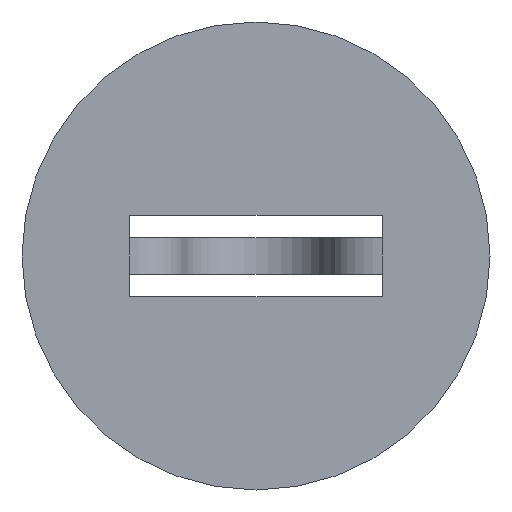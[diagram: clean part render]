
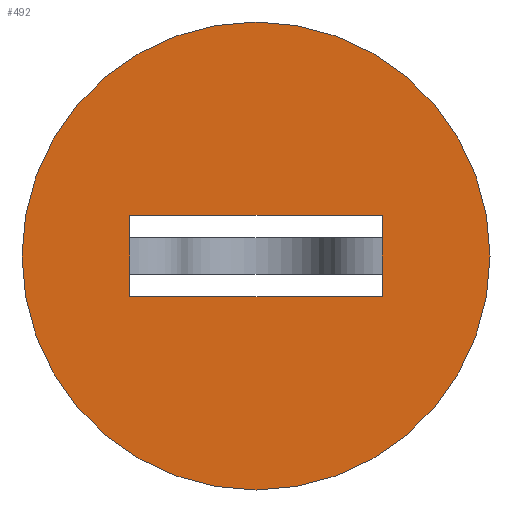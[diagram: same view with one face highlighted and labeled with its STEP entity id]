
A CAD part, front view. The second image highlights one B-rep face of the part: STEP entity #492.
In plain terms, the highlighted planar face has unit normal (0, -1, 0).
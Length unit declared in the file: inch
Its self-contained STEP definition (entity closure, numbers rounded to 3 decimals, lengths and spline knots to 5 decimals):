
#4 = EDGE_CURVE ( 'NONE', #571, #231, #393, .T. ) ;
#34 = VECTOR ( 'NONE', #324, 39.37008 ) ;
#35 = CARTESIAN_POINT ( 'NONE',  ( -0.33697, -0.074, -0.06 ) ) ;
#40 = LINE ( 'NONE', #625, #360 ) ;
#44 = DIRECTION ( 'NONE',  ( 0., 0., -1. ) ) ;
#80 = CARTESIAN_POINT ( 'NONE',  ( -0.46197, -0.074, -0.06 ) ) ;
#83 = CARTESIAN_POINT ( 'NONE',  ( 0.33697, -0.074, 0.098 ) ) ;
#84 = DIRECTION ( 'NONE',  ( 0., -1., 0. ) ) ;
#89 = ORIENTED_EDGE ( 'NONE', *, *, #130, .F. ) ;
#94 = VERTEX_POINT ( 'NONE', #107 ) ;
#107 = CARTESIAN_POINT ( 'NONE',  ( -0.33697, -0.074, 0. ) ) ;
#128 = AXIS2_PLACEMENT_3D ( 'NONE', #410, #168, #364 ) ;
#129 = ORIENTED_EDGE ( 'NONE', *, *, #4, .T. ) ;
#130 = EDGE_CURVE ( 'NONE', #94, #471, #250, .T. ) ;
#131 = EDGE_LOOP ( 'NONE', ( #89, #424, #548, #142, #632, #416, #377, #171 ) ) ;
#132 = FACE_BOUND ( 'NONE', #131, .T. ) ;
#138 = EDGE_CURVE ( 'NONE', #376, #181, #334, .T. ) ;
#140 = CARTESIAN_POINT ( 'NONE',  ( 0.33697, -0.074, 0.158 ) ) ;
#142 = ORIENTED_EDGE ( 'NONE', *, *, #590, .F. ) ;
#149 = VECTOR ( 'NONE', #348, 39.37008 ) ;
#155 = CARTESIAN_POINT ( 'NONE',  ( 0.33697, -0.074, 0. ) ) ;
#160 = LINE ( 'NONE', #359, #179 ) ;
#166 = AXIS2_PLACEMENT_3D ( 'NONE', #322, #84, #221 ) ;
#168 = DIRECTION ( 'NONE',  ( 0., -1., 0. ) ) ;
#171 = ORIENTED_EDGE ( 'NONE', *, *, #419, .F. ) ;
#172 = CARTESIAN_POINT ( 'NONE',  ( 0.33697, -0.074, 0.098 ) ) ;
#179 = VECTOR ( 'NONE', #592, 39.37008 ) ;
#181 = VERTEX_POINT ( 'NONE', #155 ) ;
#185 = EDGE_CURVE ( 'NONE', #376, #613, #40, .T. ) ;
#189 = DIRECTION ( 'NONE',  ( 0., 0., 1. ) ) ;
#190 = EDGE_LOOP ( 'NONE', ( #129, #483 ) ) ;
#198 = CARTESIAN_POINT ( 'NONE',  ( 0.33697, -0.074, 0.098 ) ) ;
#200 = CARTESIAN_POINT ( 'NONE',  ( 0.33697, -0.074, -0.06 ) ) ;
#219 = PLANE ( 'NONE',  #402 ) ;
#221 = DIRECTION ( 'NONE',  ( 0., 0., -1. ) ) ;
#231 = VERTEX_POINT ( 'NONE', #546 ) ;
#249 = CARTESIAN_POINT ( 'NONE',  ( -0.46197, -0.074, 0.158 ) ) ;
#250 = LINE ( 'NONE', #387, #266 ) ;
#266 = VECTOR ( 'NONE', #44, 39.37008 ) ;
#292 = DIRECTION ( 'NONE',  ( 0., 0., 1. ) ) ;
#320 = DIRECTION ( 'NONE',  ( 0., 0., 1. ) ) ;
#322 = CARTESIAN_POINT ( 'NONE',  ( 0., -0.074, 0.049 ) ) ;
#324 = DIRECTION ( 'NONE',  ( 0., 0., -1. ) ) ;
#333 = LINE ( 'NONE', #200, #435 ) ;
#334 = LINE ( 'NONE', #198, #149 ) ;
#336 = EDGE_CURVE ( 'NONE', #518, #94, #160, .T. ) ;
#341 = LINE ( 'NONE', #249, #553 ) ;
#345 = VECTOR ( 'NONE', #374, 39.37008 ) ;
#348 = DIRECTION ( 'NONE',  ( 0., 0., -1. ) ) ;
#359 = CARTESIAN_POINT ( 'NONE',  ( -0.33697, -0.074, 0.098 ) ) ;
#360 = VECTOR ( 'NONE', #189, 39.37008 ) ;
#364 = DIRECTION ( 'NONE',  ( 0., 0., -1. ) ) ;
#367 = CARTESIAN_POINT ( 'NONE',  ( 0.33697, -0.074, -0.06 ) ) ;
#373 = EDGE_CURVE ( 'NONE', #380, #518, #461, .T. ) ;
#374 = DIRECTION ( 'NONE',  ( 1., 0., 0. ) ) ;
#376 = VERTEX_POINT ( 'NONE', #172 ) ;
#377 = ORIENTED_EDGE ( 'NONE', *, *, #540, .F. ) ;
#380 = VERTEX_POINT ( 'NONE', #414 ) ;
#387 = CARTESIAN_POINT ( 'NONE',  ( -0.33697, -0.074, 0. ) ) ;
#393 = CIRCLE ( 'NONE', #166, 0.625 ) ;
#402 = AXIS2_PLACEMENT_3D ( 'NONE', #83, #619, #320 ) ;
#410 = CARTESIAN_POINT ( 'NONE',  ( 0., -0.074, 0.049 ) ) ;
#414 = CARTESIAN_POINT ( 'NONE',  ( -0.33697, -0.074, 0.158 ) ) ;
#416 = ORIENTED_EDGE ( 'NONE', *, *, #138, .T. ) ;
#417 = LINE ( 'NONE', #80, #345 ) ;
#419 = EDGE_CURVE ( 'NONE', #471, #436, #417, .T. ) ;
#424 = ORIENTED_EDGE ( 'NONE', *, *, #336, .F. ) ;
#435 = VECTOR ( 'NONE', #292, 39.37008 ) ;
#436 = VERTEX_POINT ( 'NONE', #367 ) ;
#457 = CARTESIAN_POINT ( 'NONE',  ( -0.33697, -0.074, 0.158 ) ) ;
#461 = LINE ( 'NONE', #457, #34 ) ;
#471 = VERTEX_POINT ( 'NONE', #35 ) ;
#473 = DIRECTION ( 'NONE',  ( -1., 0., 0. ) ) ;
#483 = ORIENTED_EDGE ( 'NONE', *, *, #494, .T. ) ;
#484 = CARTESIAN_POINT ( 'NONE',  ( -0.33697, -0.074, 0.098 ) ) ;
#492 = ADVANCED_FACE ( 'NONE', ( #132, #560 ), #219, .F. ) ;
#494 = EDGE_CURVE ( 'NONE', #231, #571, #531, .T. ) ;
#518 = VERTEX_POINT ( 'NONE', #484 ) ;
#531 = CIRCLE ( 'NONE', #128, 0.625 ) ;
#540 = EDGE_CURVE ( 'NONE', #436, #181, #333, .T. ) ;
#546 = CARTESIAN_POINT ( 'NONE',  ( 0., -0.074, 0.674 ) ) ;
#548 = ORIENTED_EDGE ( 'NONE', *, *, #373, .F. ) ;
#553 = VECTOR ( 'NONE', #473, 39.37008 ) ;
#560 = FACE_OUTER_BOUND ( 'NONE', #190, .T. ) ;
#571 = VERTEX_POINT ( 'NONE', #583 ) ;
#583 = CARTESIAN_POINT ( 'NONE',  ( 0., -0.074, -0.576 ) ) ;
#590 = EDGE_CURVE ( 'NONE', #613, #380, #341, .T. ) ;
#592 = DIRECTION ( 'NONE',  ( 0., 0., -1. ) ) ;
#613 = VERTEX_POINT ( 'NONE', #140 ) ;
#619 = DIRECTION ( 'NONE',  ( 0., 1., 0. ) ) ;
#625 = CARTESIAN_POINT ( 'NONE',  ( 0.33697, -0.074, 0.098 ) ) ;
#632 = ORIENTED_EDGE ( 'NONE', *, *, #185, .F. ) ;
